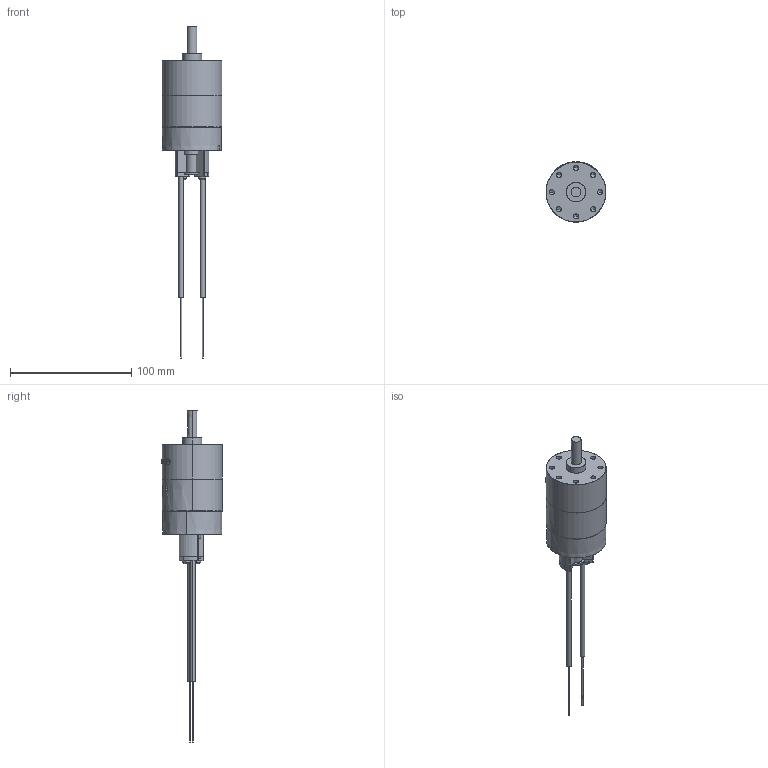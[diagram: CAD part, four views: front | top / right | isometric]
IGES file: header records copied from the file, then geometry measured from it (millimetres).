
Start section: SolidWorks IGES file using analytic representation for surfaces
Global section: file name: C:\Users\Chieh_Lu\Dropbox\¤u§@«Ç\PRO\PROA20S\PROA20S-#-#\PROA20S-#-#-#-FR.IGS; native system: SolidWorks 2014; preprocessor: SolidWorks 2014; author: Chieh_Lu; date: 150731.014354; units: millimetre
Bounding box: 49.5 x 49.78 x 274.2 mm (x, y, z)
Surface area: 43695.6 mm2 (no closed solid volume)
Topology: 0 solids, 0 shells, 526 faces, 7453 edges, 7433 vertices
Faces by surface type: revolution 270, bspline 256
